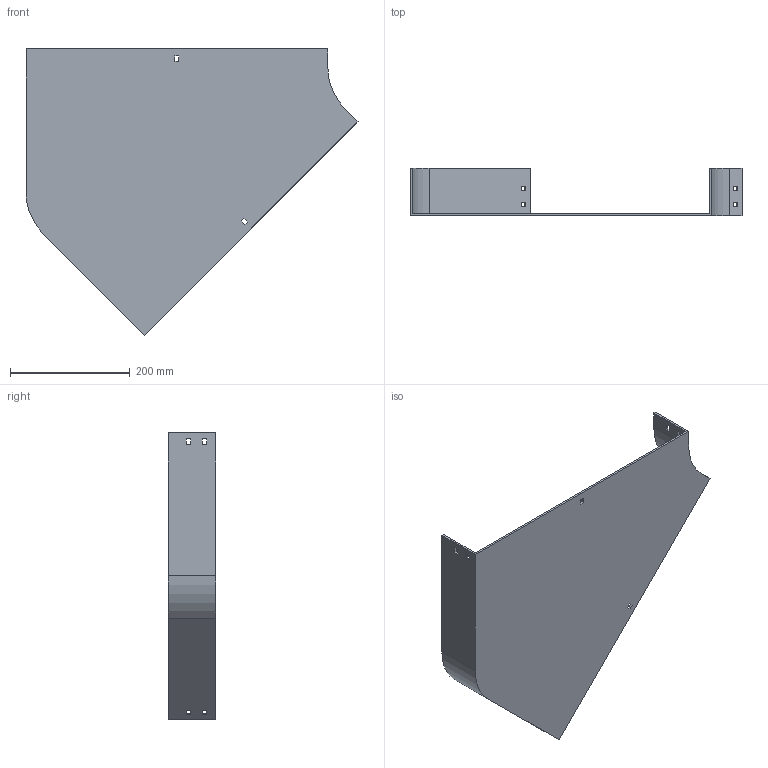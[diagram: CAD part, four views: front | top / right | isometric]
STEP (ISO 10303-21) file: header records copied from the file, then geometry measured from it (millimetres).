
FILE_DESCRIPTION (( 'STEP AP214' ), '1' );
FILE_NAME ('11F1C500.step', '2025-02-21T12:56:15', ( '' ), ( '' ), 'SwSTEP 2.0', 'SolidWorks 2023', '' );
FILE_SCHEMA (( 'AUTOMOTIVE_DESIGN' ));
Length unit declared in the file: millimetre
Products named in the file (1): 11F1C500
Bounding box: 554.5 x 79 x 478.31 mm (x, y, z)
Volume: 801414 mm3; surface area: 466136 mm2
Topology: 1 solids, 1 shells, 58 faces, 168 edges, 112 vertices
Faces by surface type: plane 54, cylinder 4
Entity records: 1943 total; most frequent: CARTESIAN_POINT 339, ORIENTED_EDGE 336, DIRECTION 294, EDGE_CURVE 168, VECTOR 160, LINE 160, VERTEX_POINT 112, EDGE_LOOP 78
